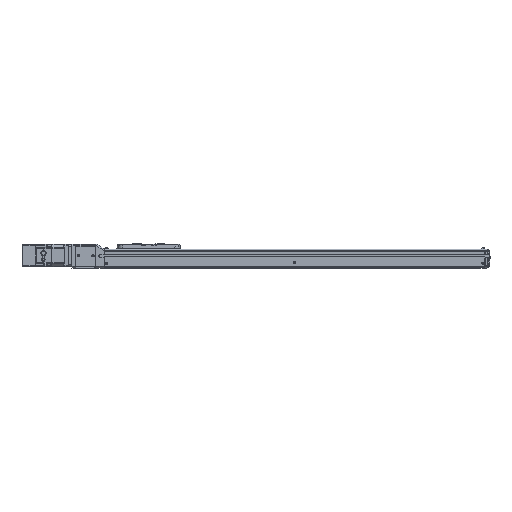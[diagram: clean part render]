
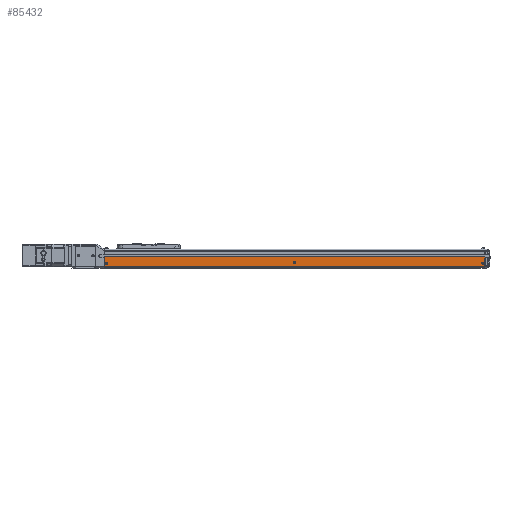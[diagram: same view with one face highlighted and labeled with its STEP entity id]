
A CAD part, top view. The second image highlights one B-rep face of the part: STEP entity #85432.
In plain terms, the highlighted planar face has unit normal (0, 0, 1).
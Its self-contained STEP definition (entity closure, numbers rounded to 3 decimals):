
#68324 = PLANE('',#68325);
#68325 = AXIS2_PLACEMENT_3D('',#68326,#68327,#68328);
#68326 = CARTESIAN_POINT('',(-726.5,1.25,21.3));
#68327 = DIRECTION('',(1.,0.,0.));
#68328 = DIRECTION('',(0.,0.,-1.));
#68723 = PLANE('',#68724);
#68724 = AXIS2_PLACEMENT_3D('',#68725,#68726,#68727);
#68725 = CARTESIAN_POINT('',(-9.5,1.25,21.3));
#68726 = DIRECTION('',(1.,0.,0.));
#68727 = DIRECTION('',(0.,0.,-1.));
#85321 = CYLINDRICAL_SURFACE('',#85322,1.);
#85322 = AXIS2_PLACEMENT_3D('',#85323,#85324,#85325);
#85323 = CARTESIAN_POINT('',(-726.5,-20.734,20.5));
#85324 = DIRECTION('',(1.,0.,0.));
#85325 = DIRECTION('',(0.,0.,-1.));
#85359 = VERTEX_POINT('',#85360);
#85360 = CARTESIAN_POINT('',(-9.5,-20.734,21.5));
#85382 = EDGE_CURVE('',#85383,#85359,#85385,.T.);
#85383 = VERTEX_POINT('',#85384);
#85384 = CARTESIAN_POINT('',(-726.5,-20.734,21.5));
#85385 = SURFACE_CURVE('',#85386,(#85390,#85397),.PCURVE_S1.);
#85386 = LINE('',#85387,#85388);
#85387 = CARTESIAN_POINT('',(-726.5,-20.734,21.5));
#85388 = VECTOR('',#85389,1.);
#85389 = DIRECTION('',(1.,0.,0.));
#85390 = PCURVE('',#85321,#85391);
#85391 = DEFINITIONAL_REPRESENTATION('',(#85392),#85396);
#85392 = LINE('',#85393,#85394);
#85393 = CARTESIAN_POINT('',(3.142,0.));
#85394 = VECTOR('',#85395,1.);
#85395 = DIRECTION('',(0.,1.));
#85396 = ( GEOMETRIC_REPRESENTATION_CONTEXT(2) 
PARAMETRIC_REPRESENTATION_CONTEXT() REPRESENTATION_CONTEXT('2D SPACE',''
  ) );
#85397 = PCURVE('',#85398,#85403);
#85398 = PLANE('',#85399);
#85399 = AXIS2_PLACEMENT_3D('',#85400,#85401,#85402);
#85400 = CARTESIAN_POINT('',(-726.5,-2.65,21.5));
#85401 = DIRECTION('',(0.,0.,1.));
#85402 = DIRECTION('',(1.,0.,-0.));
#85403 = DEFINITIONAL_REPRESENTATION('',(#85404),#85408);
#85404 = LINE('',#85405,#85406);
#85405 = CARTESIAN_POINT('',(0.,-18.084));
#85406 = VECTOR('',#85407,1.);
#85407 = DIRECTION('',(1.,0.));
#85408 = ( GEOMETRIC_REPRESENTATION_CONTEXT(2) 
PARAMETRIC_REPRESENTATION_CONTEXT() REPRESENTATION_CONTEXT('2D SPACE',''
  ) );
#85432 = ADVANCED_FACE('',(#85433,#85468,#85499,#85530),#85398,.T.);
#85433 = FACE_BOUND('',#85434,.T.);
#85434 = EDGE_LOOP('',(#85435));
#85435 = ORIENTED_EDGE('',*,*,#85436,.T.);
#85436 = EDGE_CURVE('',#85437,#85437,#85439,.T.);
#85437 = VERTEX_POINT('',#85438);
#85438 = CARTESIAN_POINT('',(-370.25,-13.5,21.5));
#85439 = SURFACE_CURVE('',#85440,(#85445,#85456),.PCURVE_S1.);
#85440 = CIRCLE('',#85441,2.25);
#85441 = AXIS2_PLACEMENT_3D('',#85442,#85443,#85444);
#85442 = CARTESIAN_POINT('',(-368.,-13.5,21.5));
#85443 = DIRECTION('',(0.,0.,-1.));
#85444 = DIRECTION('',(-1.,0.,0.));
#85445 = PCURVE('',#85398,#85446);
#85446 = DEFINITIONAL_REPRESENTATION('',(#85447),#85455);
#85447 = ( BOUNDED_CURVE() B_SPLINE_CURVE(2,(#85448,#85449,#85450,#85451
    ,#85452,#85453,#85454),.UNSPECIFIED.,.T.,.F.) 
B_SPLINE_CURVE_WITH_KNOTS((1,2,2,2,2,1),(-2.094,0.,
    2.094,4.189,6.283,8.378),
.UNSPECIFIED.) CURVE() GEOMETRIC_REPRESENTATION_ITEM() 
RATIONAL_B_SPLINE_CURVE((1.,0.5,1.,0.5,1.,0.5,1.)) REPRESENTATION_ITEM(
  '') );
#85448 = CARTESIAN_POINT('',(356.25,-10.85));
#85449 = CARTESIAN_POINT('',(356.25,-6.953));
#85450 = CARTESIAN_POINT('',(359.625,-8.901));
#85451 = CARTESIAN_POINT('',(363.,-10.85));
#85452 = CARTESIAN_POINT('',(359.625,-12.799));
#85453 = CARTESIAN_POINT('',(356.25,-14.747));
#85454 = CARTESIAN_POINT('',(356.25,-10.85));
#85455 = ( GEOMETRIC_REPRESENTATION_CONTEXT(2) 
PARAMETRIC_REPRESENTATION_CONTEXT() REPRESENTATION_CONTEXT('2D SPACE',''
  ) );
#85456 = PCURVE('',#85457,#85462);
#85457 = CONICAL_SURFACE('',#85458,2.181,0.087);
#85458 = AXIS2_PLACEMENT_3D('',#85459,#85460,#85461);
#85459 = CARTESIAN_POINT('',(-368.,-13.5,22.289));
#85460 = DIRECTION('',(0.,0.,-1.));
#85461 = DIRECTION('',(-1.,0.,0.));
#85462 = DEFINITIONAL_REPRESENTATION('',(#85463),#85467);
#85463 = LINE('',#85464,#85465);
#85464 = CARTESIAN_POINT('',(0.,0.789));
#85465 = VECTOR('',#85466,1.);
#85466 = DIRECTION('',(1.,0.));
#85467 = ( GEOMETRIC_REPRESENTATION_CONTEXT(2) 
PARAMETRIC_REPRESENTATION_CONTEXT() REPRESENTATION_CONTEXT('2D SPACE',''
  ) );
#85468 = FACE_BOUND('',#85469,.T.);
#85469 = EDGE_LOOP('',(#85470));
#85470 = ORIENTED_EDGE('',*,*,#85471,.F.);
#85471 = EDGE_CURVE('',#85472,#85472,#85474,.T.);
#85472 = VERTEX_POINT('',#85473);
#85473 = CARTESIAN_POINT('',(-720.71,-14.5,21.5));
#85474 = SURFACE_CURVE('',#85475,(#85480,#85487),.PCURVE_S1.);
#85475 = CIRCLE('',#85476,2.29);
#85476 = AXIS2_PLACEMENT_3D('',#85477,#85478,#85479);
#85477 = CARTESIAN_POINT('',(-723.,-14.5,21.5));
#85478 = DIRECTION('',(0.,0.,1.));
#85479 = DIRECTION('',(1.,0.,-0.));
#85480 = PCURVE('',#85398,#85481);
#85481 = DEFINITIONAL_REPRESENTATION('',(#85482),#85486);
#85482 = CIRCLE('',#85483,2.29);
#85483 = AXIS2_PLACEMENT_2D('',#85484,#85485);
#85484 = CARTESIAN_POINT('',(3.5,-11.85));
#85485 = DIRECTION('',(1.,0.));
#85486 = ( GEOMETRIC_REPRESENTATION_CONTEXT(2) 
PARAMETRIC_REPRESENTATION_CONTEXT() REPRESENTATION_CONTEXT('2D SPACE',''
  ) );
#85487 = PCURVE('',#85488,#85493);
#85488 = CONICAL_SURFACE('',#85489,2.29,0.087);
#85489 = AXIS2_PLACEMENT_3D('',#85490,#85491,#85492);
#85490 = CARTESIAN_POINT('',(-723.,-14.5,21.5));
#85491 = DIRECTION('',(0.,0.,-1.));
#85492 = DIRECTION('',(-1.,0.,0.));
#85493 = DEFINITIONAL_REPRESENTATION('',(#85494),#85498);
#85494 = LINE('',#85495,#85496);
#85495 = CARTESIAN_POINT('',(9.425,0.));
#85496 = VECTOR('',#85497,1.);
#85497 = DIRECTION('',(-1.,0.));
#85498 = ( GEOMETRIC_REPRESENTATION_CONTEXT(2) 
PARAMETRIC_REPRESENTATION_CONTEXT() REPRESENTATION_CONTEXT('2D SPACE',''
  ) );
#85499 = FACE_BOUND('',#85500,.T.);
#85500 = EDGE_LOOP('',(#85501));
#85501 = ORIENTED_EDGE('',*,*,#85502,.F.);
#85502 = EDGE_CURVE('',#85503,#85503,#85505,.T.);
#85503 = VERTEX_POINT('',#85504);
#85504 = CARTESIAN_POINT('',(-10.71,-14.5,21.5));
#85505 = SURFACE_CURVE('',#85506,(#85511,#85518),.PCURVE_S1.);
#85506 = CIRCLE('',#85507,2.29);
#85507 = AXIS2_PLACEMENT_3D('',#85508,#85509,#85510);
#85508 = CARTESIAN_POINT('',(-13.,-14.5,21.5));
#85509 = DIRECTION('',(0.,0.,1.));
#85510 = DIRECTION('',(1.,0.,-0.));
#85511 = PCURVE('',#85398,#85512);
#85512 = DEFINITIONAL_REPRESENTATION('',(#85513),#85517);
#85513 = CIRCLE('',#85514,2.29);
#85514 = AXIS2_PLACEMENT_2D('',#85515,#85516);
#85515 = CARTESIAN_POINT('',(713.5,-11.85));
#85516 = DIRECTION('',(1.,0.));
#85517 = ( GEOMETRIC_REPRESENTATION_CONTEXT(2) 
PARAMETRIC_REPRESENTATION_CONTEXT() REPRESENTATION_CONTEXT('2D SPACE',''
  ) );
#85518 = PCURVE('',#85519,#85524);
#85519 = CONICAL_SURFACE('',#85520,2.29,0.087);
#85520 = AXIS2_PLACEMENT_3D('',#85521,#85522,#85523);
#85521 = CARTESIAN_POINT('',(-13.,-14.5,21.5));
#85522 = DIRECTION('',(0.,0.,-1.));
#85523 = DIRECTION('',(-1.,0.,0.));
#85524 = DEFINITIONAL_REPRESENTATION('',(#85525),#85529);
#85525 = LINE('',#85526,#85527);
#85526 = CARTESIAN_POINT('',(9.425,0.));
#85527 = VECTOR('',#85528,1.);
#85528 = DIRECTION('',(-1.,0.));
#85529 = ( GEOMETRIC_REPRESENTATION_CONTEXT(2) 
PARAMETRIC_REPRESENTATION_CONTEXT() REPRESENTATION_CONTEXT('2D SPACE',''
  ) );
#85530 = FACE_BOUND('',#85531,.T.);
#85531 = EDGE_LOOP('',(#85532,#85555,#85583,#85604));
#85532 = ORIENTED_EDGE('',*,*,#85533,.F.);
#85533 = EDGE_CURVE('',#85534,#85359,#85536,.T.);
#85534 = VERTEX_POINT('',#85535);
#85535 = CARTESIAN_POINT('',(-9.5,-2.65,21.5));
#85536 = SURFACE_CURVE('',#85537,(#85541,#85548),.PCURVE_S1.);
#85537 = LINE('',#85538,#85539);
#85538 = CARTESIAN_POINT('',(-9.5,-2.65,21.5));
#85539 = VECTOR('',#85540,1.);
#85540 = DIRECTION('',(0.,-1.,0.));
#85541 = PCURVE('',#85398,#85542);
#85542 = DEFINITIONAL_REPRESENTATION('',(#85543),#85547);
#85543 = LINE('',#85544,#85545);
#85544 = CARTESIAN_POINT('',(717.,0.));
#85545 = VECTOR('',#85546,1.);
#85546 = DIRECTION('',(0.,-1.));
#85547 = ( GEOMETRIC_REPRESENTATION_CONTEXT(2) 
PARAMETRIC_REPRESENTATION_CONTEXT() REPRESENTATION_CONTEXT('2D SPACE',''
  ) );
#85548 = PCURVE('',#68723,#85549);
#85549 = DEFINITIONAL_REPRESENTATION('',(#85550),#85554);
#85550 = LINE('',#85551,#85552);
#85551 = CARTESIAN_POINT('',(-0.2,-3.9));
#85552 = VECTOR('',#85553,1.);
#85553 = DIRECTION('',(0.,-1.));
#85554 = ( GEOMETRIC_REPRESENTATION_CONTEXT(2) 
PARAMETRIC_REPRESENTATION_CONTEXT() REPRESENTATION_CONTEXT('2D SPACE',''
  ) );
#85555 = ORIENTED_EDGE('',*,*,#85556,.F.);
#85556 = EDGE_CURVE('',#85557,#85534,#85559,.T.);
#85557 = VERTEX_POINT('',#85558);
#85558 = CARTESIAN_POINT('',(-726.5,-2.65,21.5));
#85559 = SURFACE_CURVE('',#85560,(#85564,#85571),.PCURVE_S1.);
#85560 = LINE('',#85561,#85562);
#85561 = CARTESIAN_POINT('',(-726.5,-2.65,21.5));
#85562 = VECTOR('',#85563,1.);
#85563 = DIRECTION('',(1.,0.,0.));
#85564 = PCURVE('',#85398,#85565);
#85565 = DEFINITIONAL_REPRESENTATION('',(#85566),#85570);
#85566 = LINE('',#85567,#85568);
#85567 = CARTESIAN_POINT('',(0.,0.));
#85568 = VECTOR('',#85569,1.);
#85569 = DIRECTION('',(1.,0.));
#85570 = ( GEOMETRIC_REPRESENTATION_CONTEXT(2) 
PARAMETRIC_REPRESENTATION_CONTEXT() REPRESENTATION_CONTEXT('2D SPACE',''
  ) );
#85571 = PCURVE('',#85572,#85577);
#85572 = CYLINDRICAL_SURFACE('',#85573,0.2);
#85573 = AXIS2_PLACEMENT_3D('',#85574,#85575,#85576);
#85574 = CARTESIAN_POINT('',(-726.5,-2.65,21.3));
#85575 = DIRECTION('',(1.,0.,0.));
#85576 = DIRECTION('',(0.,0.,-1.));
#85577 = DEFINITIONAL_REPRESENTATION('',(#85578),#85582);
#85578 = LINE('',#85579,#85580);
#85579 = CARTESIAN_POINT('',(3.142,0.));
#85580 = VECTOR('',#85581,1.);
#85581 = DIRECTION('',(0.,1.));
#85582 = ( GEOMETRIC_REPRESENTATION_CONTEXT(2) 
PARAMETRIC_REPRESENTATION_CONTEXT() REPRESENTATION_CONTEXT('2D SPACE',''
  ) );
#85583 = ORIENTED_EDGE('',*,*,#85584,.T.);
#85584 = EDGE_CURVE('',#85557,#85383,#85585,.T.);
#85585 = SURFACE_CURVE('',#85586,(#85590,#85597),.PCURVE_S1.);
#85586 = LINE('',#85587,#85588);
#85587 = CARTESIAN_POINT('',(-726.5,-2.65,21.5));
#85588 = VECTOR('',#85589,1.);
#85589 = DIRECTION('',(0.,-1.,0.));
#85590 = PCURVE('',#85398,#85591);
#85591 = DEFINITIONAL_REPRESENTATION('',(#85592),#85596);
#85592 = LINE('',#85593,#85594);
#85593 = CARTESIAN_POINT('',(0.,0.));
#85594 = VECTOR('',#85595,1.);
#85595 = DIRECTION('',(0.,-1.));
#85596 = ( GEOMETRIC_REPRESENTATION_CONTEXT(2) 
PARAMETRIC_REPRESENTATION_CONTEXT() REPRESENTATION_CONTEXT('2D SPACE',''
  ) );
#85597 = PCURVE('',#68324,#85598);
#85598 = DEFINITIONAL_REPRESENTATION('',(#85599),#85603);
#85599 = LINE('',#85600,#85601);
#85600 = CARTESIAN_POINT('',(-0.2,-3.9));
#85601 = VECTOR('',#85602,1.);
#85602 = DIRECTION('',(0.,-1.));
#85603 = ( GEOMETRIC_REPRESENTATION_CONTEXT(2) 
PARAMETRIC_REPRESENTATION_CONTEXT() REPRESENTATION_CONTEXT('2D SPACE',''
  ) );
#85604 = ORIENTED_EDGE('',*,*,#85382,.T.);
